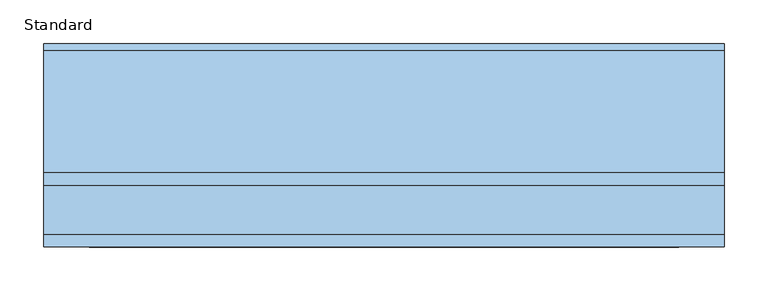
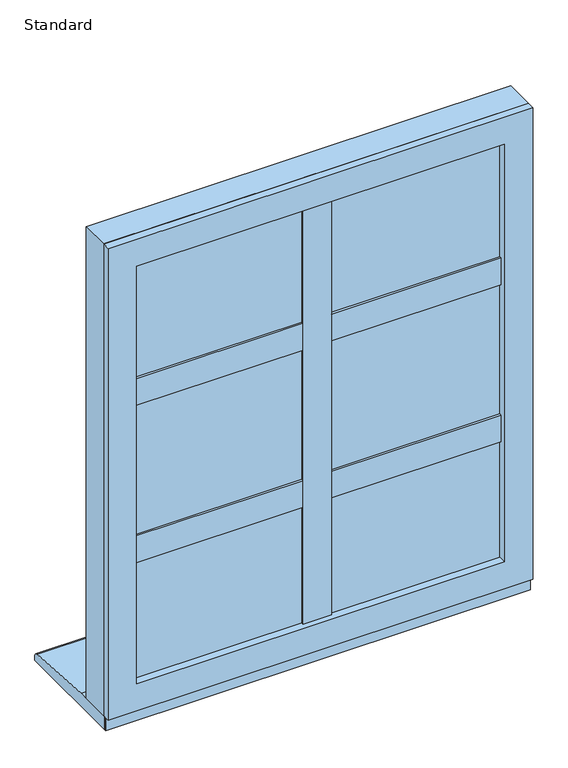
"""IFC4 building model written with IfcOpenShell, lengths in millimetres: window geometry, SMARTS_Alitherm600 : Standard."""

from ifc_helpers import new_model, si_unit, point, frame, frame_2d, origin, place, context, project, spatial, polyline, circle_curve, trimmed, segment, composite_curve, outline, extrude, faceted_brep, source, transform, mapped, element, save


def standard_d919b196(model_context):
    return source(origin(), model_context, "Body", "SolidModel", [
        extrude(outline(polyline([(-9.4, 102.8298432), (9.4, 102.8298432), (9.4, 47.2458572), (-9.4, 47.2458572), (-9.4, 102.8298432)])), frame((0.0, 0.0, 670.8979117), z_axis=(0.0, 0.0, 1.0), x_axis=(1.0, 0.0, 0.0)), (0.0, 0.0, 1.0), 843.2041766),
        extrude(outline(polyline([(-25.9020883, 47.2458572), (25.9020883, 47.2458572), (25.9020883, 43.2798432), (-25.9020883, 43.2798432), (-25.9020883, 47.2458572)])), frame((0.0, 0.0, 687.4), z_axis=(0.0, 0.0, 1.0), x_axis=(1.0, 0.0, 0.0)), (0.0, 0.0, 1.0), 810.2),
        extrude(outline(polyline([(-9.4979117, 102.8298432), (-9.4979117, 47.2458572), (-354.1020883, 47.2458572), (-354.1020883, 102.8298432), (-9.4979117, 102.8298432)])), frame((0.0, 0.0, 930.6), z_axis=(0.0, 0.0, 1.0), x_axis=(1.0, 0.0, 0.0)), (0.0, 0.0, 1.0), 18.8),
        extrude(outline(polyline([(-26.0, 47.2458572), (-26.0, 43.2798432), (-337.6, 43.2798432), (-337.6, 47.2458572), (-26.0, 47.2458572)])), frame((0.0, 0.0, 914.0979117), z_axis=(0.0, 0.0, 1.0), x_axis=(1.0, 0.0, 0.0)), (0.0, 0.0, 1.0), 51.8041766),
        extrude(outline(polyline([(-9.4979117, 102.8298432), (-9.4979117, 47.2458572), (-354.1020883, 47.2458572), (-354.1020883, 102.8298432), (-9.4979117, 102.8298432)])), frame((0.0, 0.0, 1235.6), z_axis=(0.0, 0.0, 1.0), x_axis=(1.0, 0.0, 0.0)), (0.0, 0.0, 1.0), 18.8),
        extrude(outline(polyline([(-26.0, 47.2458572), (-26.0, 43.2798432), (-337.6, 43.2798432), (-337.6, 47.2458572), (-26.0, 47.2458572)])), frame((0.0, 0.0, 1219.0979117), z_axis=(0.0, 0.0, 1.0), x_axis=(1.0, 0.0, 0.0)), (0.0, 0.0, 1.0), 51.8041766),
        extrude(outline(polyline([(354.1020883, 102.8298432), (354.1020883, 47.2458572), (9.4979117, 47.2458572), (9.4979117, 102.8298432), (354.1020883, 102.8298432)])), frame((0.0, 0.0, 930.6), z_axis=(0.0, 0.0, 1.0), x_axis=(1.0, 0.0, 0.0)), (0.0, 0.0, 1.0), 18.8),
        extrude(outline(polyline([(337.6, 47.2458572), (337.6, 43.2798432), (26.0, 43.2798432), (26.0, 47.2458572), (337.6, 47.2458572)])), frame((0.0, 0.0, 914.0979117), z_axis=(0.0, 0.0, 1.0), x_axis=(1.0, 0.0, 0.0)), (0.0, 0.0, 1.0), 51.8041766),
        extrude(outline(polyline([(354.1020883, 102.8298432), (354.1020883, 47.2458572), (9.4979117, 47.2458572), (9.4979117, 102.8298432), (354.1020883, 102.8298432)])), frame((0.0, 0.0, 1235.6), z_axis=(0.0, 0.0, 1.0), x_axis=(1.0, 0.0, 0.0)), (0.0, 0.0, 1.0), 18.8),
        extrude(outline(polyline([(337.6, 47.2458572), (337.6, 43.2798432), (26.0, 43.2798432), (26.0, 47.2458572), (337.6, 47.2458572)])), frame((0.0, 0.0, 1219.0979117), z_axis=(0.0, 0.0, 1.0), x_axis=(1.0, 0.0, 0.0)), (0.0, 0.0, 1.0), 51.8041766),
        extrude(outline(polyline([(-352.6, 77.7798432), (-11.0, 77.7798432), (-11.0, 73.7798432), (-352.6, 73.7798432), (-352.6, 77.7798432)])), frame((0.0, 0.0, 672.4), z_axis=(0.0, 0.0, 1.0), x_axis=(1.0, 0.0, 0.0)), (0.0, 0.0, 1.0), 256.6),
        extrude(outline(polyline([(-352.6, 57.7798432), (-11.0, 57.7798432), (-11.0, 53.7798432), (-352.6, 53.7798432), (-352.6, 57.7798432)])), frame((0.0, 0.0, 672.4), z_axis=(0.0, 0.0, 1.0), x_axis=(1.0, 0.0, 0.0)), (0.0, 0.0, 1.0), 256.6),
        extrude(outline(polyline([(929.0, -352.6), (672.4, -352.6), (672.4, -11.0), (929.0, -11.0), (929.0, -352.6)]), holes=[polyline([(919.0, -21.0), (682.4, -21.0), (682.4, -342.6), (919.0, -342.6), (919.0, -21.0)])]), frame((0.0, 57.7798432, 0.0), z_axis=(0.0, 1.0, 0.0), x_axis=(0.0, 0.0, 1.0)), (0.0, 0.0, 1.0), 16.0),
        faceted_brep([(-349.4160653, 102.7798432, 925.8160653), (-337.2339746, 81.6798432, 913.6339746), (-337.2339746, 81.6798432, 687.7660254), (-349.4160653, 102.7798432, 675.5839347), (-26.3660254, 81.6798432, 687.7660254), (-14.1839347, 102.7798432, 675.5839347), (-26.3660254, 81.6798432, 913.6339746), (-14.1839347, 102.7798432, 925.8160653), (-9.5, 81.6798432, 930.5), (-9.5, 102.7798432, 930.5), (-354.1, 102.7798432, 930.5), (-354.1, 81.6798432, 930.5), (-354.1, 102.7798432, 670.9), (-354.1, 81.6798432, 670.9), (-9.5, 102.7798432, 670.9), (-9.5, 81.6798432, 670.9)], [[[0, 1, 2, 3]], [[3, 2, 4, 5]], [[5, 4, 6, 7]], [[7, 6, 1, 0]], [[8, 9, 10, 11]], [[11, 10, 12, 13]], [[13, 12, 14, 15]], [[9, 14, 12, 10], [0, 3, 5, 7]], [[15, 14, 9, 8]], [[11, 13, 15, 8], [6, 4, 2, 1]]]),
        extrude(outline(polyline([(-352.6, 77.7798432), (-11.0, 77.7798432), (-11.0, 73.7798432), (-352.6, 73.7798432), (-352.6, 77.7798432)])), frame((0.0, 0.0, 951.0), z_axis=(0.0, 0.0, 1.0), x_axis=(1.0, 0.0, 0.0)), (0.0, 0.0, 1.0), 283.0),
        extrude(outline(polyline([(-352.6, 57.7798432), (-11.0, 57.7798432), (-11.0, 53.7798432), (-352.6, 53.7798432), (-352.6, 57.7798432)])), frame((0.0, 0.0, 951.0), z_axis=(0.0, 0.0, 1.0), x_axis=(1.0, 0.0, 0.0)), (0.0, 0.0, 1.0), 283.0),
        extrude(outline(polyline([(1234.0, -352.6), (951.0, -352.6), (951.0, -11.0), (1234.0, -11.0), (1234.0, -352.6)]), holes=[polyline([(1224.0, -21.0), (961.0, -21.0), (961.0, -342.6), (1224.0, -342.6), (1224.0, -21.0)])]), frame((0.0, 57.7798432, 0.0), z_axis=(0.0, 1.0, 0.0), x_axis=(0.0, 0.0, 1.0)), (0.0, 0.0, 1.0), 16.0),
        faceted_brep([(-349.4160653, 102.7798432, 1230.8160653), (-337.2339746, 81.6798432, 1218.6339746), (-337.2339746, 81.6798432, 966.3660254), (-349.4160653, 102.7798432, 954.1839347), (-26.3660254, 81.6798432, 966.3660254), (-14.1839347, 102.7798432, 954.1839347), (-26.3660254, 81.6798432, 1218.6339746), (-14.1839347, 102.7798432, 1230.8160653), (-9.5, 81.6798432, 1235.5), (-9.5, 102.7798432, 1235.5), (-354.1, 102.7798432, 1235.5), (-354.1, 81.6798432, 1235.5), (-354.1, 102.7798432, 949.5), (-354.1, 81.6798432, 949.5), (-9.5, 102.7798432, 949.5), (-9.5, 81.6798432, 949.5)], [[[0, 1, 2, 3]], [[3, 2, 4, 5]], [[5, 4, 6, 7]], [[7, 6, 1, 0]], [[8, 9, 10, 11]], [[11, 10, 12, 13]], [[13, 12, 14, 15]], [[9, 14, 12, 10], [0, 3, 5, 7]], [[15, 14, 9, 8]], [[11, 13, 15, 8], [6, 4, 2, 1]]]),
        extrude(outline(polyline([(-352.6, 77.7798432), (-11.0, 77.7798432), (-11.0, 73.7798432), (-352.6, 73.7798432), (-352.6, 77.7798432)])), frame((0.0, 0.0, 1256.0), z_axis=(0.0, 0.0, 1.0), x_axis=(1.0, 0.0, 0.0)), (0.0, 0.0, 1.0), 256.6),
        extrude(outline(polyline([(-352.6, 57.7798432), (-11.0, 57.7798432), (-11.0, 53.7798432), (-352.6, 53.7798432), (-352.6, 57.7798432)])), frame((0.0, 0.0, 1256.0), z_axis=(0.0, 0.0, 1.0), x_axis=(1.0, 0.0, 0.0)), (0.0, 0.0, 1.0), 256.6),
        extrude(outline(polyline([(1512.6, -352.6), (1256.0, -352.6), (1256.0, -11.0), (1512.6, -11.0), (1512.6, -352.6)]), holes=[polyline([(1502.6, -21.0), (1266.0, -21.0), (1266.0, -342.6), (1502.6, -342.6), (1502.6, -21.0)])]), frame((0.0, 57.7798432, 0.0), z_axis=(0.0, 1.0, 0.0), x_axis=(0.0, 0.0, 1.0)), (0.0, 0.0, 1.0), 16.0),
        faceted_brep([(-349.4160653, 102.7798432, 1509.4160653), (-337.2339746, 81.6798432, 1497.2339746), (-337.2339746, 81.6798432, 1271.3660254), (-349.4160653, 102.7798432, 1259.1839347), (-26.3660254, 81.6798432, 1271.3660254), (-14.1839347, 102.7798432, 1259.1839347), (-26.3660254, 81.6798432, 1497.2339746), (-14.1839347, 102.7798432, 1509.4160653), (-9.5, 81.6798432, 1514.1), (-9.5, 102.7798432, 1514.1), (-354.1, 102.7798432, 1514.1), (-354.1, 81.6798432, 1514.1), (-354.1, 102.7798432, 1254.5), (-354.1, 81.6798432, 1254.5), (-9.5, 102.7798432, 1254.5), (-9.5, 81.6798432, 1254.5)], [[[0, 1, 2, 3]], [[3, 2, 4, 5]], [[5, 4, 6, 7]], [[7, 6, 1, 0]], [[8, 9, 10, 11]], [[11, 10, 12, 13]], [[13, 12, 14, 15]], [[9, 14, 12, 10], [0, 3, 5, 7]], [[15, 14, 9, 8]], [[11, 13, 15, 8], [6, 4, 2, 1]]]),
        extrude(outline(polyline([(11.0, 77.7798432), (352.6, 77.7798432), (352.6, 73.7798432), (11.0, 73.7798432), (11.0, 77.7798432)])), frame((0.0, 0.0, 672.4), z_axis=(0.0, 0.0, 1.0), x_axis=(1.0, 0.0, 0.0)), (0.0, 0.0, 1.0), 256.6),
        extrude(outline(polyline([(11.0, 57.7798432), (352.6, 57.7798432), (352.6, 53.7798432), (11.0, 53.7798432), (11.0, 57.7798432)])), frame((0.0, 0.0, 672.4), z_axis=(0.0, 0.0, 1.0), x_axis=(1.0, 0.0, 0.0)), (0.0, 0.0, 1.0), 256.6),
        extrude(outline(polyline([(929.0, 11.0), (672.4, 11.0), (672.4, 352.6), (929.0, 352.6), (929.0, 11.0)]), holes=[polyline([(919.0, 342.6), (682.4, 342.6), (682.4, 21.0), (919.0, 21.0), (919.0, 342.6)])]), frame((0.0, 57.7798432, 0.0), z_axis=(0.0, 1.0, 0.0), x_axis=(0.0, 0.0, 1.0)), (0.0, 0.0, 1.0), 16.0),
        faceted_brep([(14.1839347, 102.7798432, 925.8160653), (26.3660254, 81.6798432, 913.6339746), (26.3660254, 81.6798432, 687.7660254), (14.1839347, 102.7798432, 675.5839347), (337.2339746, 81.6798432, 687.7660254), (349.4160653, 102.7798432, 675.5839347), (337.2339746, 81.6798432, 913.6339746), (349.4160653, 102.7798432, 925.8160653), (354.1, 81.6798432, 930.5), (354.1, 102.7798432, 930.5), (9.5, 102.7798432, 930.5), (9.5, 81.6798432, 930.5), (9.5, 102.7798432, 670.9), (9.5, 81.6798432, 670.9), (354.1, 102.7798432, 670.9), (354.1, 81.6798432, 670.9)], [[[0, 1, 2, 3]], [[3, 2, 4, 5]], [[5, 4, 6, 7]], [[7, 6, 1, 0]], [[8, 9, 10, 11]], [[11, 10, 12, 13]], [[13, 12, 14, 15]], [[9, 14, 12, 10], [0, 3, 5, 7]], [[15, 14, 9, 8]], [[11, 13, 15, 8], [6, 4, 2, 1]]]),
        extrude(outline(polyline([(11.0, 77.7798432), (352.6, 77.7798432), (352.6, 73.7798432), (11.0, 73.7798432), (11.0, 77.7798432)])), frame((0.0, 0.0, 951.0), z_axis=(0.0, 0.0, 1.0), x_axis=(1.0, 0.0, 0.0)), (0.0, 0.0, 1.0), 283.0),
        extrude(outline(polyline([(11.0, 57.7798432), (352.6, 57.7798432), (352.6, 53.7798432), (11.0, 53.7798432), (11.0, 57.7798432)])), frame((0.0, 0.0, 951.0), z_axis=(0.0, 0.0, 1.0), x_axis=(1.0, 0.0, 0.0)), (0.0, 0.0, 1.0), 283.0),
        extrude(outline(polyline([(1234.0, 11.0), (951.0, 11.0), (951.0, 352.6), (1234.0, 352.6), (1234.0, 11.0)]), holes=[polyline([(1224.0, 342.6), (961.0, 342.6), (961.0, 21.0), (1224.0, 21.0), (1224.0, 342.6)])]), frame((0.0, 57.7798432, 0.0), z_axis=(0.0, 1.0, 0.0), x_axis=(0.0, 0.0, 1.0)), (0.0, 0.0, 1.0), 16.0),
        faceted_brep([(14.1839347, 102.7798432, 1230.8160653), (26.3660254, 81.6798432, 1218.6339746), (26.3660254, 81.6798432, 966.3660254), (14.1839347, 102.7798432, 954.1839347), (337.2339746, 81.6798432, 966.3660254), (349.4160653, 102.7798432, 954.1839347), (337.2339746, 81.6798432, 1218.6339746), (349.4160653, 102.7798432, 1230.8160653), (354.1, 81.6798432, 1235.5), (354.1, 102.7798432, 1235.5), (9.5, 102.7798432, 1235.5), (9.5, 81.6798432, 1235.5), (9.5, 102.7798432, 949.5), (9.5, 81.6798432, 949.5), (354.1, 102.7798432, 949.5), (354.1, 81.6798432, 949.5)], [[[0, 1, 2, 3]], [[3, 2, 4, 5]], [[5, 4, 6, 7]], [[7, 6, 1, 0]], [[8, 9, 10, 11]], [[11, 10, 12, 13]], [[13, 12, 14, 15]], [[9, 14, 12, 10], [0, 3, 5, 7]], [[15, 14, 9, 8]], [[11, 13, 15, 8], [6, 4, 2, 1]]]),
        extrude(outline(polyline([(1550.0, 390.0), (1550.0, -390.0), (635.0, -390.0), (635.0, 390.0), (1550.0, 390.0)]), holes=[polyline([(670.85, 354.15), (670.85, -354.15), (1514.15, -354.15), (1514.15, 354.15), (670.85, 354.15)])]), frame((0.0, 47.2798427, 0.0), z_axis=(0.0, 1.0, 0.0), x_axis=(0.0, 0.0, 1.0)), (0.0, 0.0, 1.0), 55.5500006),
        extrude(outline(polyline([(1550.0, 390.0), (1550.0, -390.0), (635.0, -390.0), (635.0, 390.0), (1550.0, 390.0)]), holes=[polyline([(687.35, 337.65), (687.35, -337.65), (1497.65, -337.65), (1497.65, 337.65), (687.35, 337.65)])]), frame((0.0, 32.8298432, 0.0), z_axis=(0.0, 1.0, 0.0), x_axis=(0.0, 0.0, 1.0)), (0.0, 0.0, 1.0), 14.4499994),
        extrude(outline(polyline([(11.0, 77.7798432), (352.6, 77.7798432), (352.6, 73.7798432), (11.0, 73.7798432), (11.0, 77.7798432)])), frame((0.0, 0.0, 1256.0), z_axis=(0.0, 0.0, 1.0), x_axis=(1.0, 0.0, 0.0)), (0.0, 0.0, 1.0), 256.6),
        extrude(outline(polyline([(11.0, 57.7798432), (352.6, 57.7798432), (352.6, 53.7798432), (11.0, 53.7798432), (11.0, 57.7798432)])), frame((0.0, 0.0, 1256.0), z_axis=(0.0, 0.0, 1.0), x_axis=(1.0, 0.0, 0.0)), (0.0, 0.0, 1.0), 256.6),
        extrude(outline(polyline([(1512.6, 11.0), (1256.0, 11.0), (1256.0, 352.6), (1512.6, 352.6), (1512.6, 11.0)]), holes=[polyline([(1502.6, 342.6), (1266.0, 342.6), (1266.0, 21.0), (1502.6, 21.0), (1502.6, 342.6)])]), frame((0.0, 57.7798432, 0.0), z_axis=(0.0, 1.0, 0.0), x_axis=(0.0, 0.0, 1.0)), (0.0, 0.0, 1.0), 16.0),
        faceted_brep([(14.1839347, 102.7798432, 1509.4160653), (26.3660254, 81.6798432, 1497.2339746), (26.3660254, 81.6798432, 1271.3660254), (14.1839347, 102.7798432, 1259.1839347), (337.2339746, 81.6798432, 1271.3660254), (349.4160653, 102.7798432, 1259.1839347), (337.2339746, 81.6798432, 1497.2339746), (349.4160653, 102.7798432, 1509.4160653), (354.1, 81.6798432, 1514.1), (354.1, 102.7798432, 1514.1), (9.5, 102.7798432, 1514.1), (9.5, 81.6798432, 1514.1), (9.5, 102.7798432, 1254.5), (9.5, 81.6798432, 1254.5), (354.1, 102.7798432, 1254.5), (354.1, 81.6798432, 1254.5)], [[[0, 1, 2, 3]], [[3, 2, 4, 5]], [[5, 4, 6, 7]], [[7, 6, 1, 0]], [[8, 9, 10, 11]], [[11, 10, 12, 13]], [[13, 12, 14, 15]], [[9, 14, 12, 10], [0, 3, 5, 7]], [[15, 14, 9, 8]], [[11, 13, 15, 8], [6, 4, 2, 1]]]),
        extrude(outline(polyline([(390.0, 43.2798432), (390.0, 40.7798432), (-390.0, 40.7798432), (-390.0, 43.2798432), (390.0, 43.2798432)])), frame((0.0, 0.0, 610.0), z_axis=(0.0, 0.0, 1.0), x_axis=(1.0, 0.0, 0.0)), (0.0, 0.0, 1.0), 31.0),
        extrude(outline(composite_curve([segment(polyline([(265.7798432, 610.0), (43.2798432, 610.0), (43.2798432, 635.0), (118.7798432, 635.0), (258.4770891, 625.9276664)]), True, "CONTINUOUS"), segment(trimmed(circle_curve(frame_2d((257.7798432, 617.9581088)), 8.0), [point((258.4770891, 625.9276664))], [point((265.7798432, 617.9581088))], False, "CARTESIAN"), True, "CONTINUOUS"), segment(polyline([(265.7798432, 617.9581088), (265.7798432, 610.0)]), True, "CONTINUOUS")], self_intersect=False)), frame((-390.0, 0.0, 0.0), z_axis=(1.0, 0.0, 0.0), x_axis=(0.0, 1.0, 0.0)), (0.0, 0.0, 1.0), 780.0),
    ])


if __name__ == "__main__":
    model = new_model("IFC4")
    model_context = context("Model", 3, world=origin())
    ifc_project = project(units=[si_unit("LENGTHUNIT", "METRE", prefix="MILLI")], contexts=[model_context])
    site = spatial("IfcSite", under=ifc_project)
    building = spatial("IfcBuilding", under=site)
    placement = place(None, origin())
    standard_shape = standard_d919b196(model_context)
    element("IfcWindow", 1, ObjectType="SMARTS_Alitherm600 : Standard", at=placement, inside=building, context=model_context, shape_type="MappedRepresentation", body=[
        mapped(standard_shape, transform((0.0, 0.0, 0.0), x_axis=(1.0, 0.0, 0.0), y_axis=(0.0, 1.0, 0.0), z_axis=(0.0, 0.0, 1.0))),
    ])
    save(model, "model.ifc")
